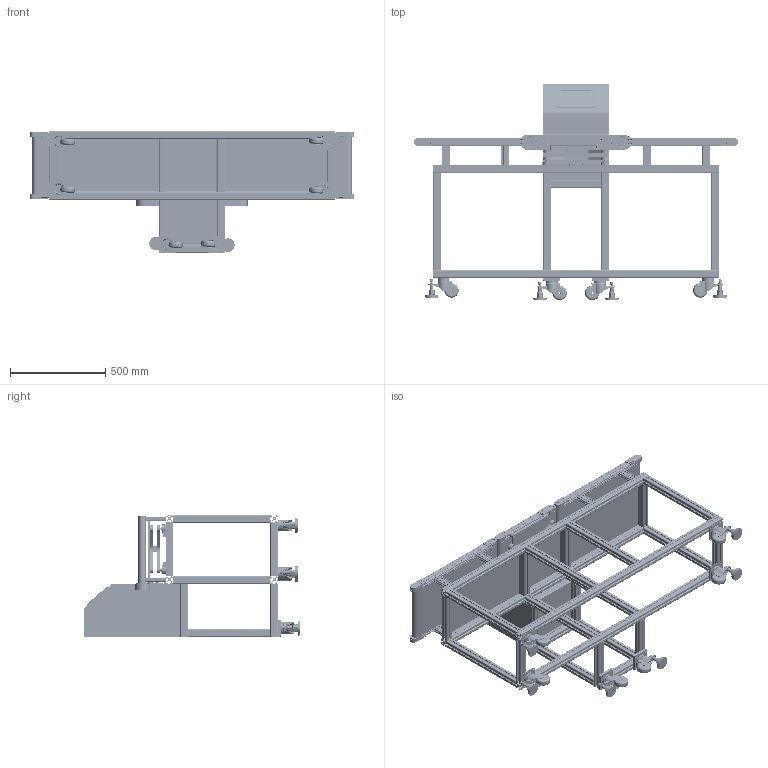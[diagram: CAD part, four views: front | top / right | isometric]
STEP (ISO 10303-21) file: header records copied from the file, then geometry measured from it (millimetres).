
FILE_DESCRIPTION(/* description */ (''),/* implementation_level */ '2;1');
FILE_NAME(/* name */ 'beltconveyor_a108_w300_l1700.stp',/* time_stamp */ '2025-01-07T21:57:35+08:00',/* author */ (''),/* organization */ (''),/* preprocessor_version */ 'ST-DEVELOPER v16.7',/* originating_system */ 'SIEMENS PLM Software NX 12.0',/* authorisation */ '');
FILE_SCHEMA (('AUTOMOTIVE_DESIGN { 1 0 10303 214 3 1 1 1 }'));
Products named in the file (79): JXH-X.stp; 90GF-H-18.stp; YX.stp; JXH-S.stp; 90YS60G.stp; 进出料产品皮带架横梁_默认_
As Machined_; 36从动滚筒; 36从动滚筒轴; 横梁固定板.1.2; 测重皮带架横梁_默认_A
s Machined_; 产品进料皮带; 产品进料垫板.1.2; 36进产品主动滚筒; 产品出料垫板.1.2; 36出产品主动滚筒; 皮带支架-1.1.2_默认_As Mach
ined_; 5M-36同步轮.1.2; 产品出料皮带.1.2; 主动轴承座; 皮带支架-2.1.2_默认_As Mach
ined_; 从动轴承座; Rolling bearings 61901 GB 276-94.2; 固定座; 导轮轴.2; 张紧轮支架.2; 导轮.2; 控制箱封板.1.2; 称重显示器安装座.1.2; 触摸屏7寸.1.2; jushizhizhao-130-22-30.1.2; 称重皮带.1.2; hexagon socket head cap screws gb_GB_FASTENER_SCREWS_HSHCS M5X25-N; 皮带支架-3.1.2_默认_As Mach
ined_; 电动滚筒固定板.1.2; 计数秤平台板.1.2; 电动滚筒.1.2; 测重从动轴承座; 产品称重垫板.1.2; deep groove ball bearings gb_Rolling bearings 61902 GB 276-94; 垫高板.1.2 ...
Assembly tree (132 placements, depth 4):
  beltconveyor_a108_w300_l1700
    定位块.1.2  x4
    装配体-脚轮.0.1.2  x6
      hex nuts 1-fine pitch-grades ab gb_GB_FASTENER_NUT_SNAB1XY  B M18X1.5
-N
      hex thin nuts grades ab gb_GB_FASTENER_NUT_STNABTT  B M18X1.5-N
      脚轮法兰.0.1.2
      定位环.0.1.2
      hex nuts, style 1-grades ab gb_PreviewCfg
      hex head bolts-full thread grade c gb_PreviewCfg
      脚轮支架.0.1.2
      脚轮.0.1.2
      脚轮架.0.1.2
    皮带盖板
    产品称重流水线.1.2
      测重横梁组件  x2
        测重皮带架横梁_默认_A
s Machined_
        横梁固定板.1.2
      电动滚筒座连接板.1.2  x5
      称重从动滚筒轴.1.2
      计数秤脚.1.2  x4
      皮带支架-4.1.2_默认_As Mach
ined_
      电动滚连接板  x2
      称重从动滚筒.1.2
      垫高板.1.2  x4
      deep groove ball bearings gb_Rolling bearings 61902 GB 276-94  x2
      产品称重垫板.1.2
      测重从动轴承座  x2
      电动滚筒.1.2
      计数秤平台板.1.2
      电动滚筒固定板.1.2  x2
      皮带支架-3.1.2_默认_As Mach
ined_
      hexagon socket head cap screws gb_GB_FASTENER_SCREWS_HSHCS M5X25-N  x2
      称重皮带.1.2
      jushizhizhao-130-22-30.1.2
    称重显示器组件.1.2
      触摸屏7寸.1.2
      称重显示器安装座.1.2
      控制箱封板.1.2
    盖板1.1.2  x2
    脚轮焊接法兰.1.2  x2
    流水线主支架.1.2_默认_A
s Machined_
    皮带张紧轮.2  x2
      导轮.2
      张紧轮支架.2
      导轮轴.2
      固定座
      Rolling bearings 61901 GB 276-94.2
    皮带轮罩.2  x2
    进料流水线支柱.1.2_默认_
As Machined_  x8
    出产品流水线.1.2
      从动轴承座  x2
      皮带支架-2.1.2_默认_As Mach
ined_
      36从动滚筒组件
        36从动滚筒轴
        36从动滚筒
      主动轴承座  x2
      产品出料皮带.1.2
      进出料产品横梁组件  x3
        进出料产品皮带架横梁_默认_
As Machined_
        横梁固定板.1.2
Bounding box: 1703 x 1134.3 x 641 mm (x, y, z)
Volume: 22894491.7 mm3; surface area: 16463565 mm2
Topology: 244 solids, 248 shells, 24994 faces, 66078 edges, 41123 vertices
Faces by surface type: plane 10613, cylinder 7134, bspline 3675, torus 1441, cone 1282, sphere 480, extrusion 369
Entity records: 679493 total; most frequent: CARTESIAN_POINT 211758, ORIENTED_EDGE 101460, DIRECTION 85547, EDGE_CURVE 50730, VERTEX_POINT 31563, AXIS2_PLACEMENT_3D 29234, VECTOR 27079, LINE 26710
